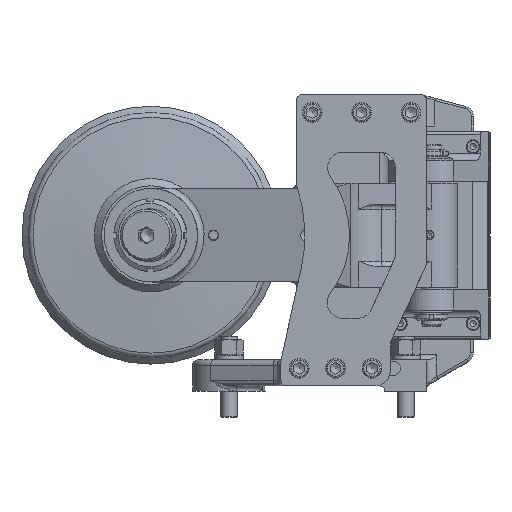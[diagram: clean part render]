
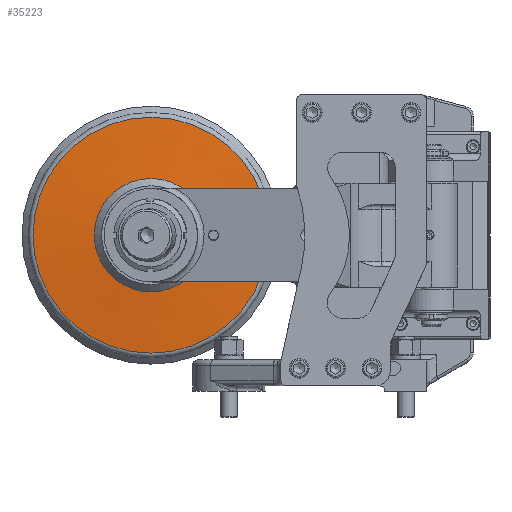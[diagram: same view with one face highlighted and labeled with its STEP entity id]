
A CAD part, left-side view. The second image highlights one B-rep face of the part: STEP entity #35223.
In plain terms, the highlighted conical face has half-angle 85 degrees and reference radius 83.968 mm.
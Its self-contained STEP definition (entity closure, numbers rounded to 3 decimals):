
#2298=CONICAL_SURFACE('',#38844,83.968,1.484);
#3980=FACE_OUTER_BOUND('',#6043,.T.);
#6043=EDGE_LOOP('',(#30166,#30167,#30168,#30169,#30170,#30171,#30172));
#8404=LINE('',#67976,#10710);
#10710=VECTOR('',#48272,83.968);
#12599=CIRCLE('',#38841,113.436);
#12600=CIRCLE('',#38842,113.436);
#12601=CIRCLE('',#38843,113.436);
#12602=CIRCLE('',#38845,54.5);
#12603=CIRCLE('',#38846,54.5);
#15830=VERTEX_POINT('',#67967);
#15831=VERTEX_POINT('',#67969);
#15832=VERTEX_POINT('',#67971);
#15833=VERTEX_POINT('',#67975);
#15834=VERTEX_POINT('',#67977);
#20711=EDGE_CURVE('',#15830,#15831,#12599,.T.);
#20712=EDGE_CURVE('',#15831,#15832,#12600,.T.);
#20713=EDGE_CURVE('',#15832,#15830,#12601,.T.);
#20714=EDGE_CURVE('',#15831,#15833,#8404,.T.);
#20715=EDGE_CURVE('',#15833,#15834,#12602,.T.);
#20716=EDGE_CURVE('',#15834,#15833,#12603,.T.);
#30166=ORIENTED_EDGE('',*,*,#20713,.F.);
#30167=ORIENTED_EDGE('',*,*,#20712,.F.);
#30168=ORIENTED_EDGE('',*,*,#20714,.T.);
#30169=ORIENTED_EDGE('',*,*,#20715,.T.);
#30170=ORIENTED_EDGE('',*,*,#20716,.T.);
#30171=ORIENTED_EDGE('',*,*,#20714,.F.);
#30172=ORIENTED_EDGE('',*,*,#20711,.F.);
#35223=ADVANCED_FACE('',(#3980),#2298,.T.);
#38841=AXIS2_PLACEMENT_3D('',#67970,#48264,#48265);
#38842=AXIS2_PLACEMENT_3D('',#67972,#48266,#48267);
#38843=AXIS2_PLACEMENT_3D('',#67973,#48268,#48269);
#38844=AXIS2_PLACEMENT_3D('',#67974,#48270,#48271);
#38845=AXIS2_PLACEMENT_3D('',#67978,#48273,#48274);
#38846=AXIS2_PLACEMENT_3D('',#67979,#48275,#48276);
#48264=DIRECTION('center_axis',(1.,0.,0.));
#48265=DIRECTION('ref_axis',(0.,0.,
1.));
#48266=DIRECTION('center_axis',(1.,0.,0.));
#48267=DIRECTION('ref_axis',(0.,0.,
1.));
#48268=DIRECTION('center_axis',(1.,0.,0.));
#48269=DIRECTION('ref_axis',(0.,0.,
1.));
#48270=DIRECTION('center_axis',(1.,0.,0.));
#48271=DIRECTION('ref_axis',(0.,0.,
1.));
#48272=DIRECTION('',(-0.087,0.,0.996));
#48273=DIRECTION('center_axis',(1.,0.,0.));
#48274=DIRECTION('ref_axis',(0.,0.,
1.));
#48275=DIRECTION('center_axis',(1.,0.,0.));
#48276=DIRECTION('ref_axis',(0.,0.,
1.));
#67967=CARTESIAN_POINT('',(109.406,196.564,150.));
#67969=CARTESIAN_POINT('',(109.406,310.,36.564));
#67970=CARTESIAN_POINT('Origin',(109.406,310.,150.));
#67971=CARTESIAN_POINT('',(109.406,310.,263.436));
#67972=CARTESIAN_POINT('Origin',(109.406,310.,150.));
#67973=CARTESIAN_POINT('Origin',(109.406,310.,150.));
#67974=CARTESIAN_POINT('Origin',(106.828,310.,150.));
#67975=CARTESIAN_POINT('',(104.25,310.,95.5));
#67976=CARTESIAN_POINT('',(106.828,310.,66.032));
#67977=CARTESIAN_POINT('',(104.25,310.,204.5));
#67978=CARTESIAN_POINT('Origin',(104.25,310.,150.));
#67979=CARTESIAN_POINT('Origin',(104.25,310.,150.));
